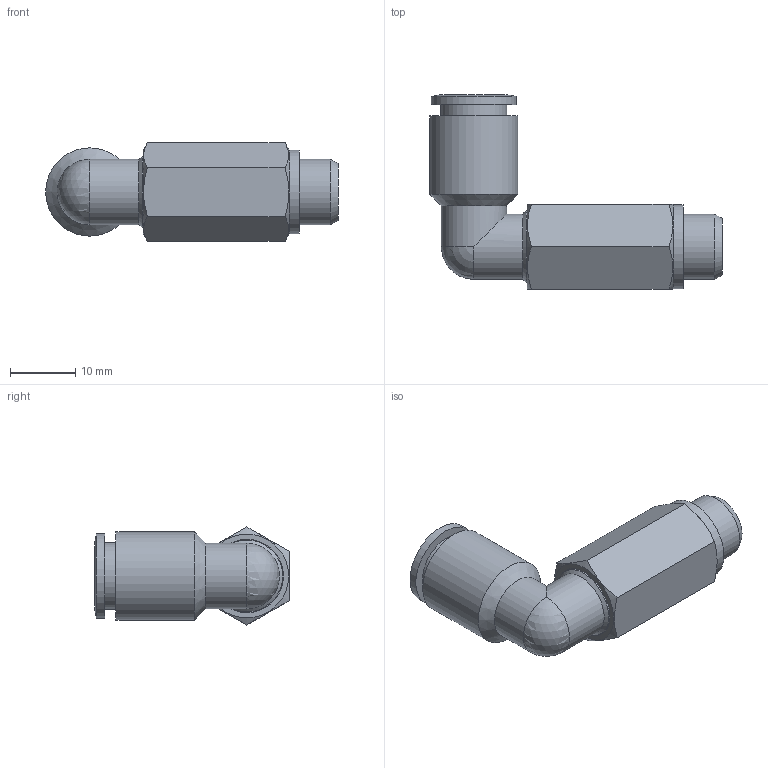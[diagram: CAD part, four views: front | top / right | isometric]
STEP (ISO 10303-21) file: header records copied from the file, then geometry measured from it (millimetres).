
FILE_DESCRIPTION((''),'2;1');
FILE_NAME('C:\Documents and Settings\rivolro1\Documenti\copia di Raccordi\PLASTICA\T22LXXXX\T22L0818.stp','2007-11-02T14:17:46',('Rivolro1'),(''),'Autodesk Inventor 2008','Autodesk Inventor 2008','');
FILE_SCHEMA(('AUTOMOTIVE_DESIGN { 1 0 10303 214 1 1 1 1 }'));
Length unit declared in the file: millimetre
Products named in the file (1): T22L0818
Bounding box: 44.75 x 29.75 x 15.01 mm (x, y, z)
Volume: 5792.7 mm3; surface area: 3910.4 mm2
Topology: 1 solids, 1 shells, 37 faces, 84 edges, 51 vertices
Faces by surface type: plane 14, cylinder 12, cone 6, bspline 4, sphere 1
Full cylindrical faces by diameter (mm): 3.8 x1, 6.2 x1, 10 x3, 10.1 x1, 11 x1, 11.2 x1, 12.8 x1, 13 x1, 13.5 x1
Entity records: 1063 total; most frequent: CARTESIAN_POINT 304, DIRECTION 142, ORIENTED_EDGE 112, AXIS2_PLACEMENT_3D 66, EDGE_LOOP 63, EDGE_CURVE 56, VERTEX_POINT 45, FACE_OUTER_BOUND 37
